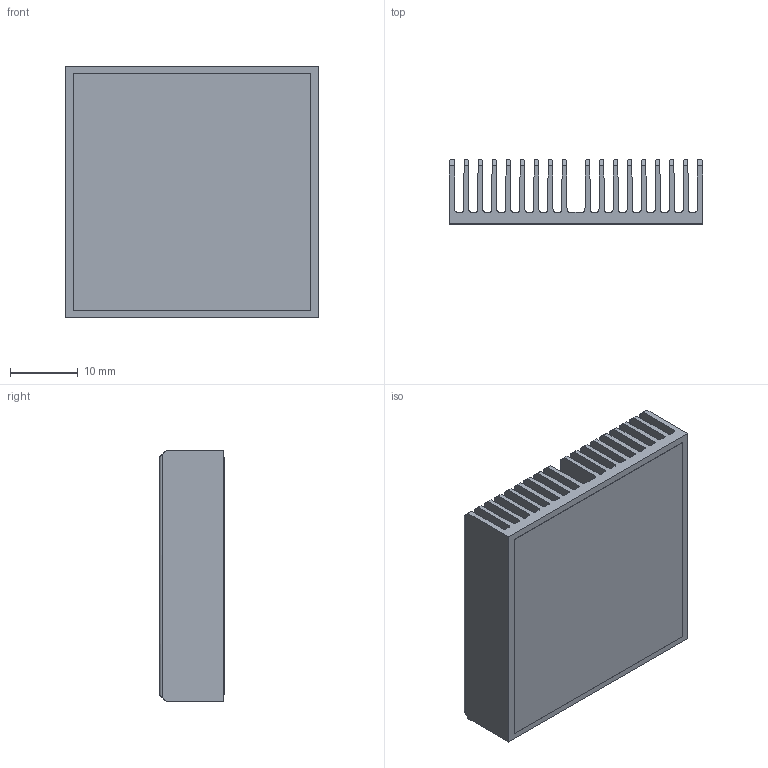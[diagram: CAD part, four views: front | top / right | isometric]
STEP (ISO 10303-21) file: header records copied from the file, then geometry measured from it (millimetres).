
FILE_DESCRIPTION (( 'STEP AP214' ), '1' );
FILE_NAME ('INL37.5001-10-1.7.STEP', '2023-03-01T15:44:51', ( '' ), ( '' ), 'SwSTEP 2.0', 'SolidWorks 2020', '' );
FILE_SCHEMA (( 'AUTOMOTIVE_DESIGN' ));
Length unit declared in the file: millimetre
Products named in the file (1): INL37.5001-10-1.7
Bounding box: 37.3 x 9.63 x 37 mm (x, y, z)
Volume: 6199.5 mm3; surface area: 15594.5 mm2
Topology: 2 solids, 2 shells, 150 faces, 438 edges, 292 vertices
Faces by surface type: plane 98, cylinder 52
Entity records: 6623 total; most frequent: CARTESIAN_POINT 989, ORIENTED_EDGE 876, DIRECTION 772, EDGE_CURVE 438, LINE 334, VECTOR 334, VERTEX_POINT 292, AXIS2_PLACEMENT_3D 219
